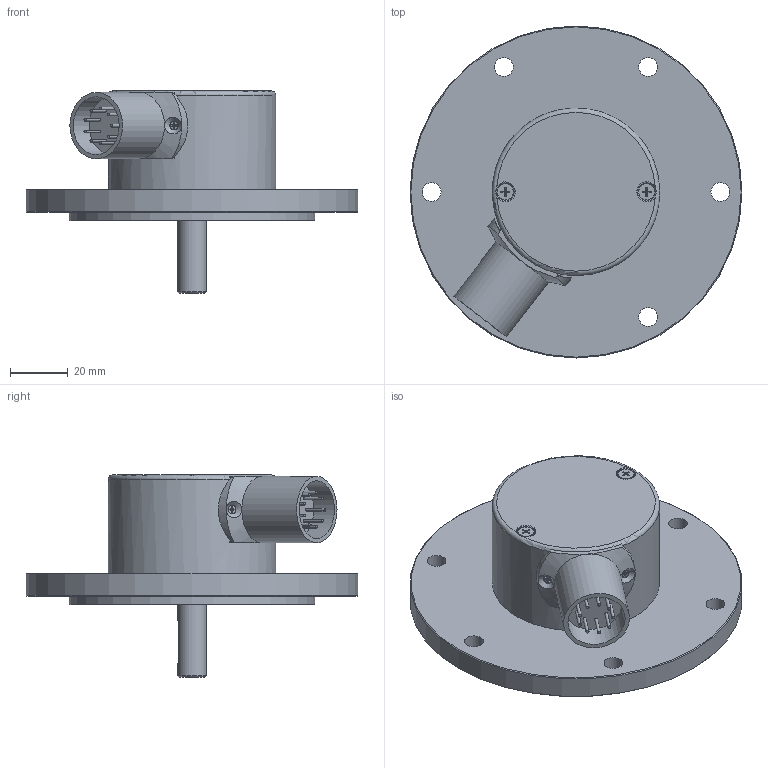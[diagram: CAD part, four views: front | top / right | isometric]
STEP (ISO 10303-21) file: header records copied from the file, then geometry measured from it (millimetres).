
FILE_DESCRIPTION((''),'2;1');
FILE_NAME('V:\WDG-Artikel\1\115TxxxxS5\04_Mechan_Konstruktionsunterlagen\115TxxxxS5.stp','2010-11-11T08:54:10',('TP'),(''),'Autodesk Inventor 2008','Autodesk Inventor 2008','');
FILE_SCHEMA(('AUTOMOTIVE_DESIGN { 1 0 10303 214 1 1 1 1 }'));
Length unit declared in the file: millimetre
Products named in the file (1): 115TxxxxS5
Bounding box: 115 x 115 x 70 mm (x, y, z)
Volume: 134800.2 mm3; surface area: 57568.3 mm2
Topology: 3 solids, 5 shells, 406 faces, 952 edges, 596 vertices
Faces by surface type: plane 122, cone 100, cylinder 89, torus 37, bspline 32, sphere 26
Full cylindrical faces by diameter (mm): 0.5 x1, 1 x9, 2.013 x3, 2.224 x2, 2.5 x2, 2.693 x2, 3 x6, 5.6 x2, 6.5 x6, 9.6 x1, 10 x3, 12.7 x1, 13 x1, 14.8 x6, 16 x1, 18 x1, 20 x2, 21.4 x4, 22 x1, 22.6 x8, 23 x2, 25.85 x1, 26 x1, 53.5 x1, 56 x2, 56.05 x1, 58 x1, 85 x1, 115 x1
Entity records: 16080 total; most frequent: CARTESIAN_POINT 7448, DIRECTION 1764, ORIENTED_EDGE 1480, AXIS2_PLACEMENT_3D 796, EDGE_CURVE 740, EDGE_LOOP 634, VERTEX_POINT 544, CIRCLE 417
